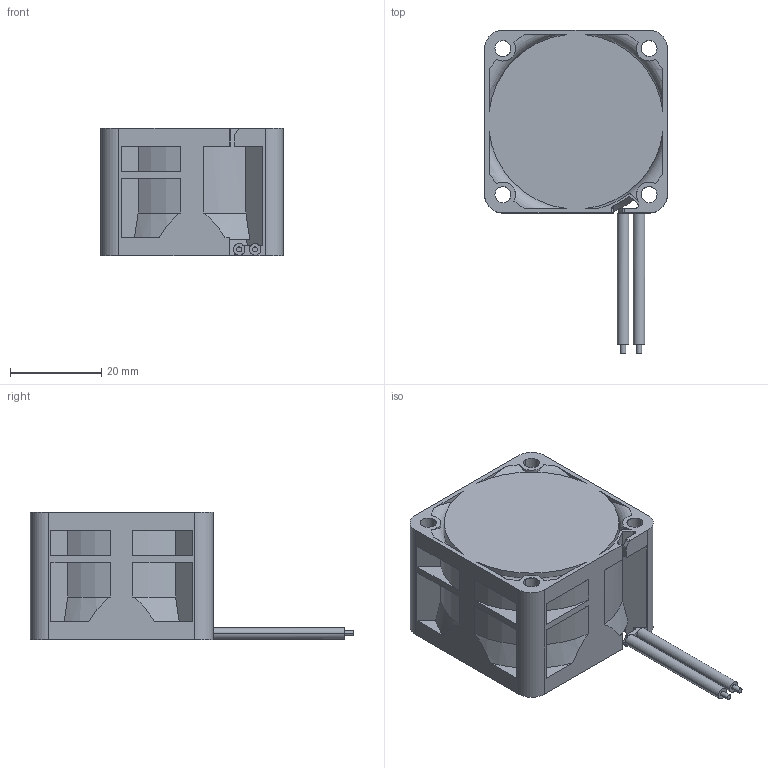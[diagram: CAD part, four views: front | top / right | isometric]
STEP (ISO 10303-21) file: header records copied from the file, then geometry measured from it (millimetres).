
FILE_DESCRIPTION((''),'2;1');
FILE_NAME('4028-FRAME-TOOLING_22','2026-09-18T09:43:04',('pc'),(''),'CREO PARAMETRIC BY PTC INC, 2018050','CREO PARAMETRIC BY PTC INC, 2018050','');
FILE_SCHEMA(('CONFIG_CONTROL_DESIGN','GEOMETRIC_VALIDATION_PROPERTIES_MIM'));
Length unit declared in the file: millimetre
Products named in the file (1): 4028-FRAME-TOOLING_22
Bounding box: 40 x 70.8 x 28 mm (x, y, z)
Volume: 40051.4 mm3; surface area: 12267.6 mm2
Topology: 1 solids, 2 shells, 220 faces, 578 edges, 385 vertices
Faces by surface type: plane 87, cylinder 81, bspline 26, cone 22, torus 4
Entity records: 10407 total; most frequent: CARTESIAN_POINT 4977, ORIENTED_EDGE 1156, DIRECTION 988, EDGE_CURVE 578, VERTEX_POINT 385, AXIS2_PLACEMENT_3D 374, EDGE_LOOP 251, VECTOR 240
